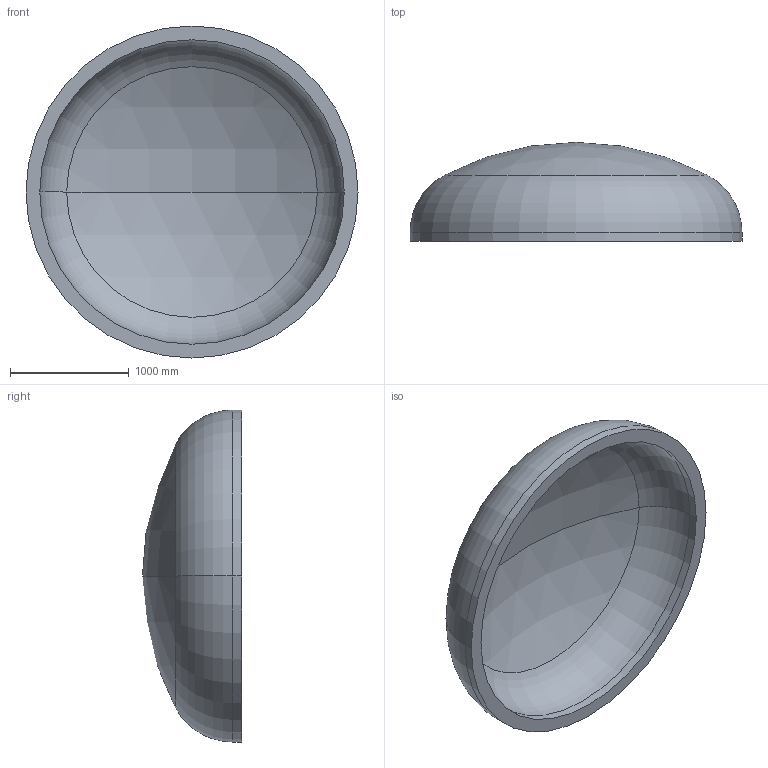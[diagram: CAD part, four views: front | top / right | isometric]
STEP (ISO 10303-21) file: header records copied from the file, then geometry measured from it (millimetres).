
FILE_DESCRIPTION (( 'STEP AP203' ), '1' );
FILE_NAME ('DIN 28013 Korbbogenform_-_Boden DIN 28013 - 2800 x 75 - I - s=116.step', '2016-07-01T17:22:33', ( '' ), ( '' ), 'SwSTEP 2.0', 'SolidWorks 2013', '' );
FILE_SCHEMA (( 'CONFIG_CONTROL_DESIGN' ));
Length unit declared in the file: millimetre
Products named in the file (1): DIN 28013 Korbbogenform_-_Boden DIN 28013 - 2800 x 75 - I - s=116
Bounding box: 2800 x 835.14 x 2800 mm (x, y, z)
Volume: 1010443553 mm3; surface area: 18427733.4 mm2
Topology: 1 solids, 1 shells, 13 faces, 24 edges, 14 vertices
Faces by surface type: torus 4, cylinder 4, sphere 4, plane 1
Entity records: 407 total; most frequent: DIRECTION 72, CARTESIAN_POINT 52, ORIENTED_EDGE 48, AXIS2_PLACEMENT_3D 34, EDGE_CURVE 24, CIRCLE 20, EDGE_LOOP 14, VERTEX_POINT 14
